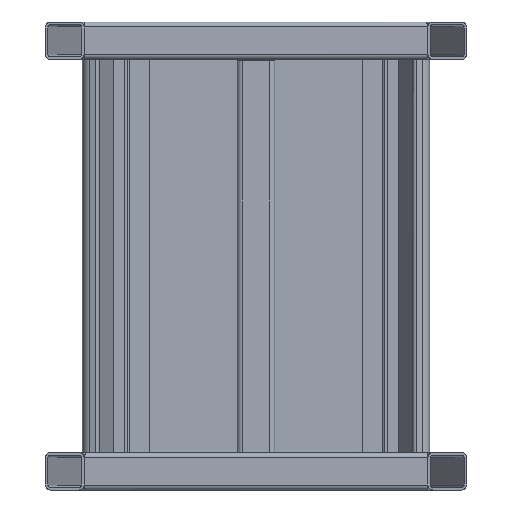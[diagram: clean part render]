
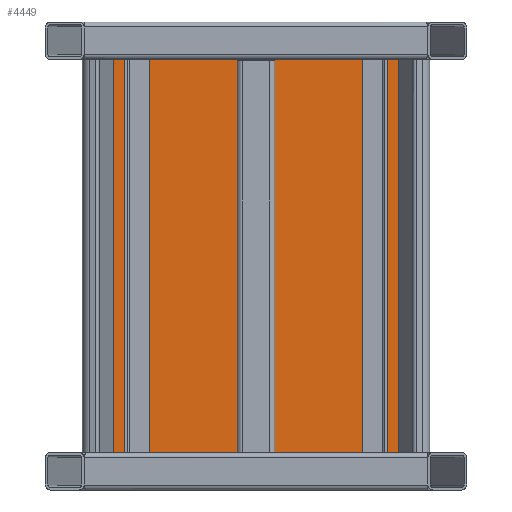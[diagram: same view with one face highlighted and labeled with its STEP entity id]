
A CAD part, front view. The second image highlights one B-rep face of the part: STEP entity #4449.
In plain terms, the highlighted planar face has unit normal (0, -1, 0).
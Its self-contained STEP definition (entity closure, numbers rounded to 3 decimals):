
#197=FACE_BOUND('',#692,.T.);
#198=FACE_BOUND('',#693,.T.);
#199=FACE_BOUND('',#694,.T.);
#200=FACE_BOUND('',#695,.T.);
#201=FACE_BOUND('',#696,.T.);
#202=FACE_BOUND('',#697,.T.);
#203=FACE_BOUND('',#698,.T.);
#204=FACE_BOUND('',#699,.T.);
#261=PLANE('',#4778);
#419=FACE_OUTER_BOUND('',#691,.T.);
#691=EDGE_LOOP('',(#3073,#3074,#3075,#3076,#3077,#3078,#3079,#3080));
#692=EDGE_LOOP('',(#3081));
#693=EDGE_LOOP('',(#3082));
#694=EDGE_LOOP('',(#3083));
#695=EDGE_LOOP('',(#3084));
#696=EDGE_LOOP('',(#3085));
#697=EDGE_LOOP('',(#3086));
#698=EDGE_LOOP('',(#3087));
#699=EDGE_LOOP('',(#3088));
#994=LINE('',#6721,#1414);
#996=LINE('',#6741,#1416);
#998=LINE('',#6761,#1418);
#1000=LINE('',#6778,#1420);
#1414=VECTOR('',#5307,10.);
#1416=VECTOR('',#5319,10.);
#1418=VECTOR('',#5331,10.);
#1420=VECTOR('',#5341,10.);
#1825=CIRCLE('',#4721,5.75);
#1827=CIRCLE('',#4725,5.75);
#1829=CIRCLE('',#4729,5.75);
#1831=CIRCLE('',#4733,5.75);
#1833=CIRCLE('',#4737,5.75);
#1835=CIRCLE('',#4741,5.75);
#1837=CIRCLE('',#4745,5.75);
#1839=CIRCLE('',#4749,5.75);
#1842=CIRCLE('',#4753,3.);
#1848=CIRCLE('',#4760,3.);
#1852=CIRCLE('',#4765,3.);
#1856=CIRCLE('',#4770,3.);
#1909=VERTEX_POINT('',#6644);
#1911=VERTEX_POINT('',#6651);
#1913=VERTEX_POINT('',#6658);
#1915=VERTEX_POINT('',#6665);
#1917=VERTEX_POINT('',#6672);
#1919=VERTEX_POINT('',#6679);
#1921=VERTEX_POINT('',#6686);
#1923=VERTEX_POINT('',#6693);
#1926=VERTEX_POINT('',#6709);
#1927=VERTEX_POINT('',#6711);
#1929=VERTEX_POINT('',#6717);
#1931=VERTEX_POINT('',#6731);
#1933=VERTEX_POINT('',#6737);
#1935=VERTEX_POINT('',#6751);
#1937=VERTEX_POINT('',#6757);
#1939=VERTEX_POINT('',#6771);
#2329=EDGE_CURVE('',#1909,#1909,#1825,.T.);
#2332=EDGE_CURVE('',#1911,#1911,#1827,.T.);
#2335=EDGE_CURVE('',#1913,#1913,#1829,.T.);
#2338=EDGE_CURVE('',#1915,#1915,#1831,.T.);
#2341=EDGE_CURVE('',#1917,#1917,#1833,.T.);
#2344=EDGE_CURVE('',#1919,#1919,#1835,.T.);
#2347=EDGE_CURVE('',#1921,#1921,#1837,.T.);
#2350=EDGE_CURVE('',#1923,#1923,#1839,.T.);
#2354=EDGE_CURVE('',#1926,#1927,#1842,.T.);
#2359=EDGE_CURVE('',#1927,#1929,#994,.T.);
#2362=EDGE_CURVE('',#1929,#1931,#1848,.T.);
#2365=EDGE_CURVE('',#1931,#1933,#996,.T.);
#2368=EDGE_CURVE('',#1933,#1935,#1852,.T.);
#2371=EDGE_CURVE('',#1935,#1937,#998,.T.);
#2374=EDGE_CURVE('',#1937,#1939,#1856,.T.);
#2376=EDGE_CURVE('',#1939,#1926,#1000,.T.);
#3073=ORIENTED_EDGE('',*,*,#2354,.F.);
#3074=ORIENTED_EDGE('',*,*,#2376,.F.);
#3075=ORIENTED_EDGE('',*,*,#2374,.F.);
#3076=ORIENTED_EDGE('',*,*,#2371,.F.);
#3077=ORIENTED_EDGE('',*,*,#2368,.F.);
#3078=ORIENTED_EDGE('',*,*,#2365,.F.);
#3079=ORIENTED_EDGE('',*,*,#2362,.F.);
#3080=ORIENTED_EDGE('',*,*,#2359,.F.);
#3081=ORIENTED_EDGE('',*,*,#2329,.T.);
#3082=ORIENTED_EDGE('',*,*,#2332,.T.);
#3083=ORIENTED_EDGE('',*,*,#2335,.T.);
#3084=ORIENTED_EDGE('',*,*,#2338,.T.);
#3085=ORIENTED_EDGE('',*,*,#2341,.T.);
#3086=ORIENTED_EDGE('',*,*,#2344,.T.);
#3087=ORIENTED_EDGE('',*,*,#2347,.T.);
#3088=ORIENTED_EDGE('',*,*,#2350,.T.);
#4449=ADVANCED_FACE('',(#419,#197,#198,#199,#200,#201,#202,#203,#204),#261,
 .F.);
#4721=AXIS2_PLACEMENT_3D('',#6645,#5224,#5225);
#4725=AXIS2_PLACEMENT_3D('',#6652,#5233,#5234);
#4729=AXIS2_PLACEMENT_3D('',#6659,#5242,#5243);
#4733=AXIS2_PLACEMENT_3D('',#6666,#5251,#5252);
#4737=AXIS2_PLACEMENT_3D('',#6673,#5260,#5261);
#4741=AXIS2_PLACEMENT_3D('',#6680,#5269,#5270);
#4745=AXIS2_PLACEMENT_3D('',#6687,#5278,#5279);
#4749=AXIS2_PLACEMENT_3D('',#6694,#5287,#5288);
#4753=AXIS2_PLACEMENT_3D('',#6712,#5296,#5297);
#4760=AXIS2_PLACEMENT_3D('',#6735,#5312,#5313);
#4765=AXIS2_PLACEMENT_3D('',#6755,#5324,#5325);
#4770=AXIS2_PLACEMENT_3D('',#6775,#5336,#5337);
#4778=AXIS2_PLACEMENT_3D('',#6797,#5361,#5362);
#5224=DIRECTION('center_axis',(0.,1.,0.));
#5225=DIRECTION('ref_axis',(1.,0.,0.));
#5233=DIRECTION('center_axis',(0.,1.,0.));
#5234=DIRECTION('ref_axis',(1.,0.,0.));
#5242=DIRECTION('center_axis',(0.,1.,0.));
#5243=DIRECTION('ref_axis',(1.,0.,0.));
#5251=DIRECTION('center_axis',(0.,1.,0.));
#5252=DIRECTION('ref_axis',(1.,0.,0.));
#5260=DIRECTION('center_axis',(0.,1.,0.));
#5261=DIRECTION('ref_axis',(1.,0.,0.));
#5269=DIRECTION('center_axis',(0.,1.,0.));
#5270=DIRECTION('ref_axis',(1.,0.,0.));
#5278=DIRECTION('center_axis',(0.,1.,0.));
#5279=DIRECTION('ref_axis',(1.,0.,0.));
#5287=DIRECTION('center_axis',(0.,1.,0.));
#5288=DIRECTION('ref_axis',(1.,0.,0.));
#5296=DIRECTION('center_axis',(0.,1.,0.));
#5297=DIRECTION('ref_axis',(0.707,0.,0.707));
#5307=DIRECTION('',(0.,0.,-1.));
#5312=DIRECTION('center_axis',(0.,1.,0.));
#5313=DIRECTION('ref_axis',(0.707,0.,-0.707));
#5319=DIRECTION('',(-1.,0.,0.));
#5324=DIRECTION('center_axis',(0.,1.,0.));
#5325=DIRECTION('ref_axis',(-0.707,0.,-0.707));
#5331=DIRECTION('',(0.,0.,1.));
#5336=DIRECTION('center_axis',(0.,1.,0.));
#5337=DIRECTION('ref_axis',(-0.707,0.,0.707));
#5341=DIRECTION('',(1.,0.,0.));
#5361=DIRECTION('center_axis',(0.,1.,0.));
#5362=DIRECTION('ref_axis',(0.,0.,
1.));
#6644=CARTESIAN_POINT('',(-67.44,-329.126,-809.058));
#6645=CARTESIAN_POINT('Origin',(-61.69,-329.126,-809.058));
#6651=CARTESIAN_POINT('',(312.56,-329.126,-479.058));
#6652=CARTESIAN_POINT('Origin',(318.31,-329.126,-479.058));
#6658=CARTESIAN_POINT('',(-67.44,-329.126,-479.058));
#6659=CARTESIAN_POINT('Origin',(-61.69,-329.126,-479.058));
#6665=CARTESIAN_POINT('',(312.56,-329.126,-809.058));
#6666=CARTESIAN_POINT('Origin',(318.31,-329.126,-809.058));
#6672=CARTESIAN_POINT('',(17.56,-329.126,-989.058));
#6673=CARTESIAN_POINT('Origin',(23.31,-329.126,-989.058));
#6679=CARTESIAN_POINT('',(227.56,-329.126,-299.058));
#6680=CARTESIAN_POINT('Origin',(233.31,-329.126,-299.058));
#6686=CARTESIAN_POINT('',(17.56,-329.126,-299.058));
#6687=CARTESIAN_POINT('Origin',(23.31,-329.126,-299.058));
#6693=CARTESIAN_POINT('',(227.56,-329.126,-989.058));
#6694=CARTESIAN_POINT('Origin',(233.31,-329.126,-989.058));
#6709=CARTESIAN_POINT('',(375.31,-329.126,-274.058));
#6711=CARTESIAN_POINT('',(378.31,-329.126,-277.058));
#6712=CARTESIAN_POINT('Origin',(375.31,-329.126,-277.058));
#6717=CARTESIAN_POINT('',(378.31,-329.126,-1011.058));
#6721=CARTESIAN_POINT('',(378.31,-329.126,-460.558));
#6731=CARTESIAN_POINT('',(375.31,-329.126,-1014.058));
#6735=CARTESIAN_POINT('Origin',(375.31,-329.126,-1011.058));
#6737=CARTESIAN_POINT('',(-118.69,-329.126,-1014.058));
#6741=CARTESIAN_POINT('',(251.81,-329.126,-1014.058));
#6751=CARTESIAN_POINT('',(-121.69,-329.126,-1011.058));
#6755=CARTESIAN_POINT('Origin',(-118.69,-329.126,-1011.058));
#6757=CARTESIAN_POINT('',(-121.69,-329.126,-277.058));
#6761=CARTESIAN_POINT('',(-121.69,-329.126,-827.558));
#6771=CARTESIAN_POINT('',(-118.69,-329.126,-274.058));
#6775=CARTESIAN_POINT('Origin',(-118.69,-329.126,-277.058));
#6778=CARTESIAN_POINT('',(4.81,-329.126,-274.058));
#6797=CARTESIAN_POINT('Origin',(128.31,-329.126,-644.058));
